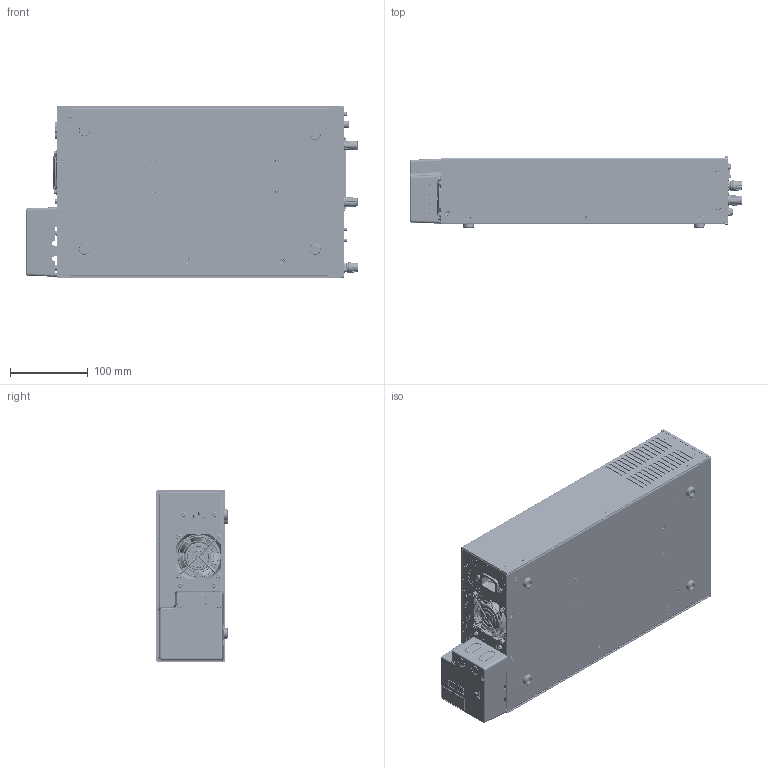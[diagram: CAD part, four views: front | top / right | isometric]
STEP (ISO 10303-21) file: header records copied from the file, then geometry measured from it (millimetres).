
FILE_DESCRIPTION(/* description */ (''),/* implementation_level */ '2;1');
FILE_NAME(/* name */ 'A:\Data\SM800\presentation\assembly SM800 outside P257_Shrinkwrap_1.stp',/* time_stamp */ '2021-01-11T16:55:17+01:00',/* author */ ('Delta'),/* organization */ (''),/* preprocessor_version */ 'ST-DEVELOPER v17.2',/* originating_system */ 'Autodesk Inventor 2019',/* authorisation */ '');
FILE_SCHEMA (('AUTOMOTIVE_DESIGN { 1 0 10303 214 3 1 1 }'));
Products named in the file (1): assembly SM800 outside P257_Shrinkwrap_1
Bounding box: 428 x 91.55 x 222 mm (x, y, z)
Volume: 6857707.9 mm3; surface area: 397034 mm2
Topology: 1 solids, 1 shells, 8818 faces, 23287 edges, 15111 vertices
Faces by surface type: plane 5391, bspline 1772, cylinder 891, cone 503, torus 199, sphere 62
Full cylindrical faces by diameter (mm): 0.393 x1, 0.5 x16, 0.7 x1, 1 x6, 1.1 x15, 1.409 x1, 1.5 x16, 2 x2, 2.156 x2, 2.2 x4, 2.5 x6, 2.73 x2, 3 x27, 3.1 x4, 3.2 x23, 3.4 x4, 3.5 x15, 4 x8, 4.2 x4, 4.25 x6, 4.3 x4, 4.4 x4, 4.6 x2, 5 x5, 5.2 x2, 5.5 x25, 6 x27, 6.7 x4, 6.8 x4, 7 x5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
Entity records: 295340 total; most frequent: CARTESIAN_POINT 79859, ORIENTED_EDGE 46438, DIRECTION 36439, EDGE_CURVE 23219, VERTEX_POINT 15111, LINE 14915, VECTOR 14915, AXIS2_PLACEMENT_3D 10762
